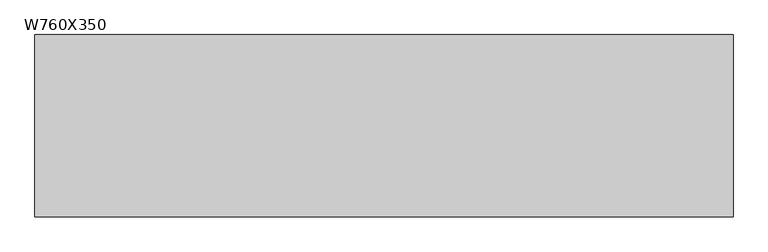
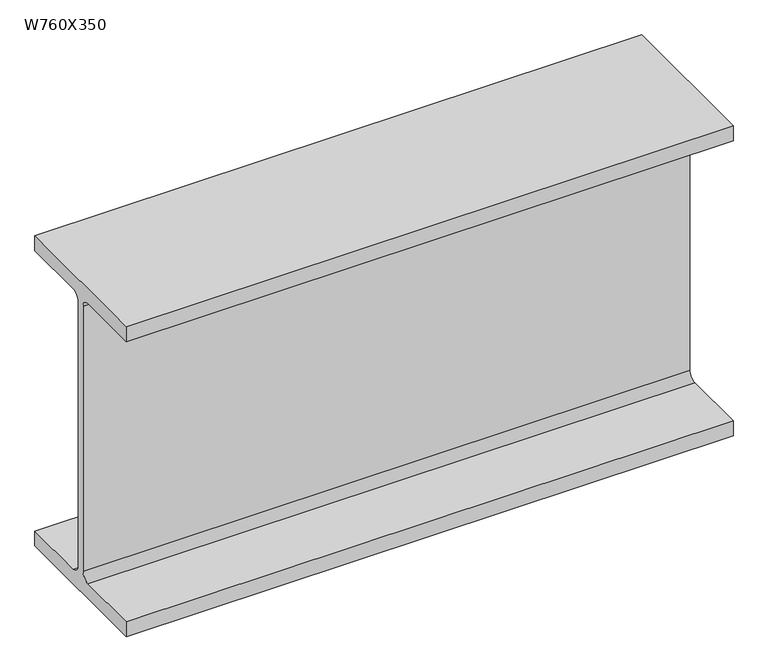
"""IFC4 building model written with IfcOpenShell, lengths in millimetres: beam geometry, M_W Shapes : W760X350."""

from ifc_helpers import new_model, si_unit, point, frame, frame_2d, origin, place, context, project, spatial, polyline, circle_curve, trimmed, segment, composite_curve, outline, extrude, source, transform, mapped, element, save


def w760x350_3b0f9326(model_context):
    return source(origin(), model_context, "Body", "SweptSolid", [
        extrude(outline(composite_curve([segment(polyline([(192.0, -359.4), (192.0, -397.5), (-192.0, -397.5), (-192.0, -359.4), (-30.65, -359.4)]), True, "CONTINUOUS"), segment(trimmed(circle_curve(frame_2d((-30.65, -339.3)), 20.1), [point((-30.65, -359.4))], [point((-10.55, -339.3))], True, "CARTESIAN"), True, "CONTINUOUS"), segment(polyline([(-10.55, -339.3), (-10.55, 339.3)]), True, "CONTINUOUS"), segment(trimmed(circle_curve(frame_2d((-30.65, 339.3)), 20.1), [point((-10.55, 339.3))], [point((-30.65, 359.4))], True, "CARTESIAN"), True, "CONTINUOUS"), segment(polyline([(-30.65, 359.4), (-192.0, 359.4), (-192.0, 397.5), (192.0, 397.5), (192.0, 359.4), (30.65, 359.4)]), True, "CONTINUOUS"), segment(trimmed(circle_curve(frame_2d((30.65, 339.3)), 20.1), [point((30.65, 359.4))], [point((10.55, 339.3))], True, "CARTESIAN"), True, "CONTINUOUS"), segment(polyline([(10.55, 339.3), (10.55, -339.3)]), True, "CONTINUOUS"), segment(trimmed(circle_curve(frame_2d((30.65, -339.3)), 20.1), [point((10.55, -339.3))], [point((30.65, -359.4))], True, "CARTESIAN"), True, "CONTINUOUS"), segment(polyline([(30.65, -359.4), (192.0, -359.4)]), True, "CONTINUOUS")], self_intersect=False)), frame((-735.9, 0.0, 0.0), z_axis=(1.0, 0.0, 0.0), x_axis=(0.0, 1.0, 0.0)), (0.0, 0.0, 1.0), 1471.8),
    ])


if __name__ == "__main__":
    model = new_model("IFC4")
    model_context = context("Model", 3, world=origin())
    ifc_project = project(units=[si_unit("LENGTHUNIT", "METRE", prefix="MILLI")], contexts=[model_context])
    site = spatial("IfcSite", under=ifc_project)
    building = spatial("IfcBuilding", under=site)
    placement = place(None, origin())
    w760x350_shape = w760x350_3b0f9326(model_context)
    element("IfcBeam", 1, ObjectType="M_W Shapes : W760X350", at=placement, inside=building, context=model_context, shape_type="MappedRepresentation", body=[
        mapped(w760x350_shape, transform((0.0, 0.0, 0.0), x_axis=(1.0, 0.0, 0.0), y_axis=(0.0, 1.0, 0.0), z_axis=(0.0, 0.0, 1.0))),
    ])
    save(model, "model.ifc")
